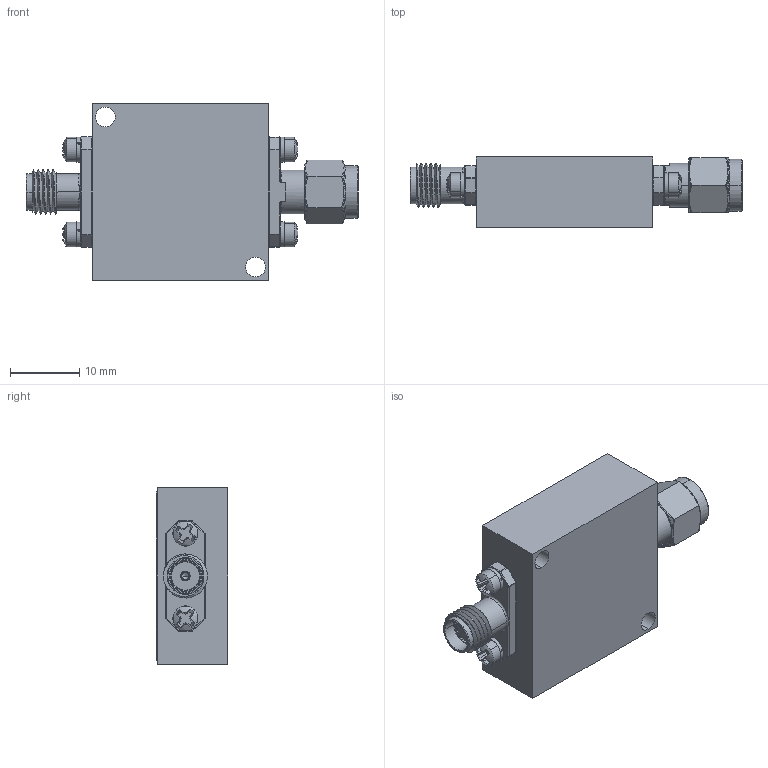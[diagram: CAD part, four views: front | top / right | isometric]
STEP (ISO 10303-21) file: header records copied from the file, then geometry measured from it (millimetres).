
FILE_DESCRIPTION (( 'STEP AP214' ), '1' );
FILE_NAME ('3D STEP.STEP', '2024-04-05T21:04:31', ( '' ), ( '' ), 'SwSTEP 2.0', 'SolidWorks 2023', '' );
FILE_SCHEMA (( 'AUTOMOTIVE_DESIGN' ));
Length unit declared in the file: inch
Products named in the file (1): 3D STEP
Bounding box: 47.78 x 10.29 x 25.4 mm (x, y, z)
Volume: 7384.1 mm3; surface area: 5178.9 mm2
Topology: 16 solids, 16 shells, 720 faces, 3020 edges, 2434 vertices
Faces by surface type: plane 301, cylinder 162, torus 114, cone 48, sphere 48, bspline 47
Entity records: 35204 total; most frequent: CARTESIAN_POINT 9584, ORIENTED_EDGE 5952, DIRECTION 4653, EDGE_CURVE 2976, VERTEX_POINT 2434, LINE 1897, VECTOR 1897, AXIS2_PLACEMENT_3D 1378
